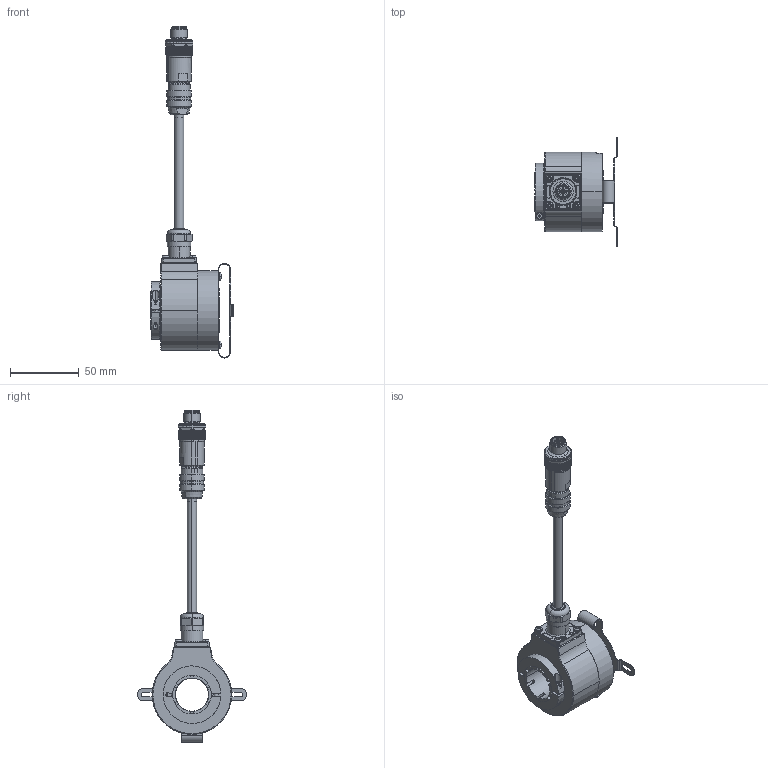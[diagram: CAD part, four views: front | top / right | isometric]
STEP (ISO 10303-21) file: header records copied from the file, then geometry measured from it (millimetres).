
FILE_DESCRIPTION (( 'STEP AP203' ), '1' );
FILE_NAME ('K58I.OXX.XXXXX.XC16524.XXR13.XXXX.step', '2025-12-03T07:30:25', ( '' ), ( '' ), 'SwSTEP 2.0', 'SolidWorks 2021', '' );
FILE_SCHEMA (( 'CONFIG_CONTROL_DESIGN' ));
Length unit declared in the file: millimetre
Products named in the file (1): K58I.OXX.XXXXX.XC16524.XXR13.XXXX
Bounding box: 60.2 x 79.4 x 241.99 mm (x, y, z)
Volume: 127928.2 mm3; surface area: 54714.6 mm2
Topology: 22 solids, 22 shells, 1672 faces, 4126 edges, 2522 vertices
Faces by surface type: plane 615, cylinder 612, cone 326, bspline 68, torus 35, sphere 16
Entity records: 53144 total; most frequent: CARTESIAN_POINT 14575, ORIENTED_EDGE 8204, DIRECTION 7953, EDGE_CURVE 4102, AXIS2_PLACEMENT_3D 3148, VERTEX_POINT 2520, EDGE_LOOP 1756, ADVANCED_FACE 1672
